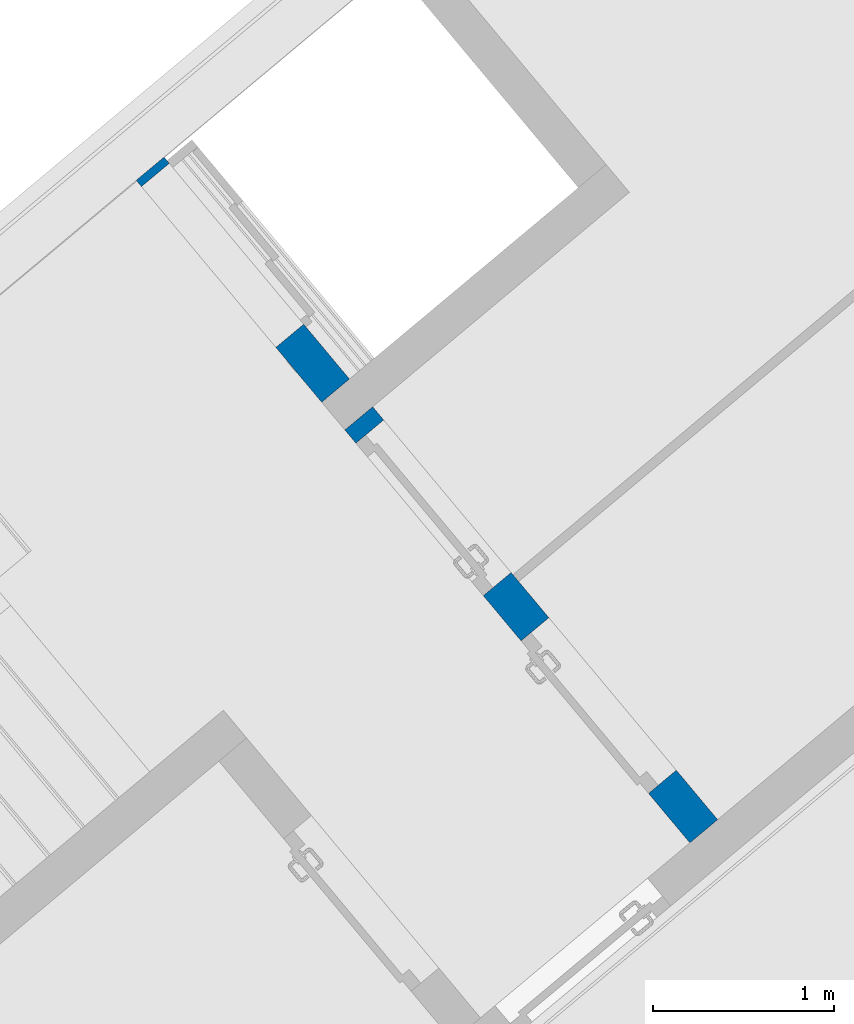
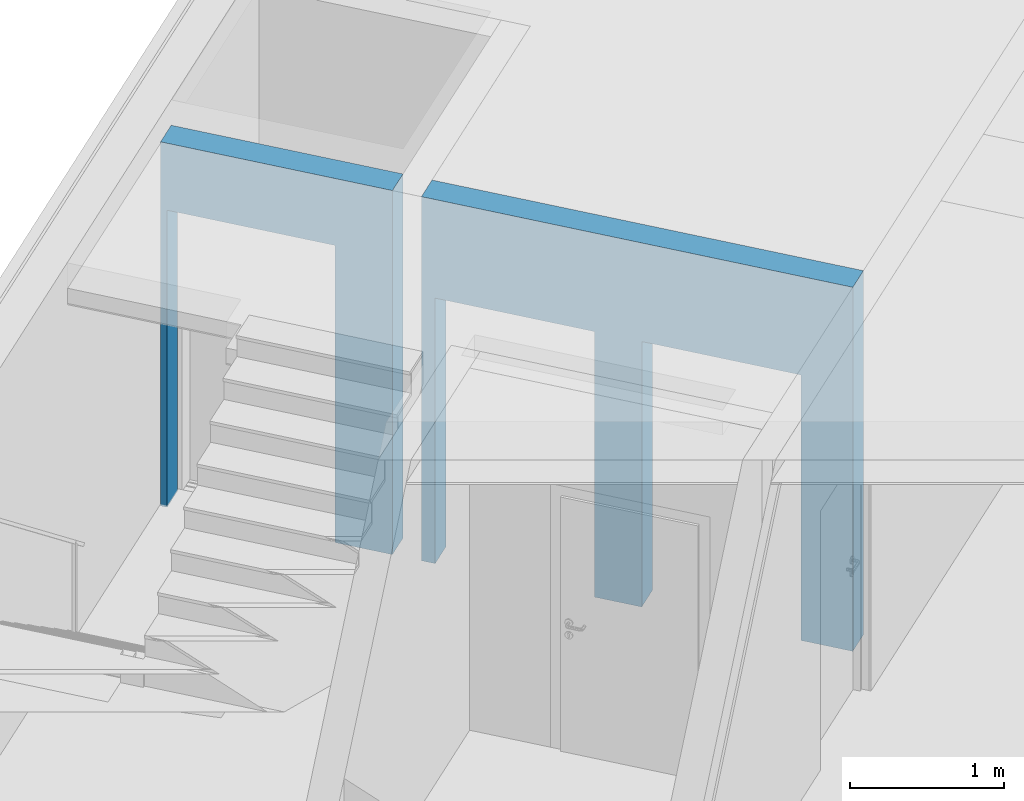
# One storey, part 5 of 14: 1 wall, 3 openings.
"""IFC4 building model written with IfcOpenShell, lengths in metres."""

from ifc_helpers import new_model, entity, si_unit, converted_unit, derived_unit, direction, frame, origin_with_axes, place, context, subcontext, project, spatial, polygons, material, type_object, element, save


model = new_model("IFC4")

# Units and contexts
model_context = context("Model", 3, precision=1e-05, world=origin_with_axes(), true_north=direction((0.0, 1.0)))
body_context = subcontext(model_context, "Body", "Model", "MODEL_VIEW")
ifc_project = project(units=[si_unit("LENGTHUNIT", "METRE"), si_unit("AREAUNIT", "SQUARE_METRE"), si_unit("VOLUMEUNIT", "CUBIC_METRE"), converted_unit("PLANEANGLEUNIT", "DEGREE", entity("IfcPlaneAngleMeasure", 0.0174532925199), si_unit("PLANEANGLEUNIT", "RADIAN"), dimensions=[0, 0, 0, 0, 0, 0, 0]), converted_unit("TIMEUNIT", "Year", entity("IfcTimeMeasure", 31556926.0), si_unit("TIMEUNIT", "SECOND"), dimensions=[0, 0, 1, 0, 0, 0, 0]), si_unit("MASSUNIT", "GRAM", prefix="KILO"), si_unit("THERMODYNAMICTEMPERATUREUNIT", "DEGREE_CELSIUS"), si_unit("LUMINOUSINTENSITYUNIT", "LUMEN"), si_unit("ENERGYUNIT", "JOULE", prefix="MEGA"), derived_unit("THERMALCONDUCTANCEUNIT", [(si_unit("POWERUNIT", "WATT"), 1), (si_unit("LENGTHUNIT", "METRE"), -1), (si_unit("THERMODYNAMICTEMPERATUREUNIT", "KELVIN"), -1)]), derived_unit("SPECIFICHEATCAPACITYUNIT", [(si_unit("ENERGYUNIT", "JOULE"), 1), (si_unit("MASSUNIT", "GRAM", prefix="KILO"), -1), (si_unit("THERMODYNAMICTEMPERATUREUNIT", "KELVIN"), -1)]), derived_unit("MASSDENSITYUNIT", [(si_unit("MASSUNIT", "GRAM", prefix="KILO"), 1), (si_unit("VOLUMEUNIT", "CUBIC_METRE"), -1)])], contexts=[model_context])

# Site, building, storey, space
site_placement = place(None, frame((-0.00153261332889, -0.00661245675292, 0.0), z_axis=(0.0, 0.0, 1.0), x_axis=(1.0, 0.0, 0.0)))
site = spatial("IfcSite", under=ifc_project, at=site_placement, Name="Gelände", CompositionType="ELEMENT")
building_placement = place(site_placement, origin_with_axes())
building = spatial("IfcBuilding", under=site, at=building_placement, Name="Gebäude", CompositionType="ELEMENT")
storey_placement = place(building_placement, frame((0.0, 0.0, -3.3), z_axis=(0.0, 0.0, 1.0), x_axis=(1.0, 0.0, 0.0)))
storey = spatial("IfcBuildingStorey", under=building, at=storey_placement, Name="UG1", CompositionType="ELEMENT", Elevation=-3.3)
space_placement = place(storey_placement, frame((1.60331277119, 27.0712922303, 0.0), z_axis=(0.0, 0.0, 1.0), x_axis=(-0.76736623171, -0.641209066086, 0.0)))
space = spatial("IfcSpace", under=storey, at=space_placement, CompositionType="ELEMENT", PredefinedType="NOTDEFINED")

# Wall, openings
ifc_material = material(Name="Stahlbeton Wand")
wall_type = type_object("IfcWallType", Name="Stahlbeton Wand 200", PredefinedType="NOTDEFINED")
wall_placement = place(space_placement, frame((1.65065098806, 4.97700945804, 0.0), z_axis=(0.0, 0.0, 1.0), x_axis=(5.92263839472e-07, -1.0, 0.0)))
wall = element("IfcWall", 1, at=wall_placement, inside=space, type_object=wall_type, material=ifc_material, Name="Wand-009", PredefinedType="NOTDEFINED", context=body_context, shape_type="Tessellation", body=[
    polygons([(4.93202469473, -8.03421372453e-06, 2.35), (4.93202469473, -8.03415251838e-06, 0.015), (4.93202469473, -8.03415251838e-06, 0.0), (4.97700945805, 0.0, 0.0), (4.97700945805, 0.0, 2.88), (3.37702469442, 0.0, 2.88), (3.37702469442, 0.0, 0.0), (3.77202469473, -8.03421372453e-06, 0.0), (3.77202469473, -8.03421372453e-06, 0.015), (3.77202469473, -8.03421372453e-06, 2.35), (4.93202469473, 0.2, 2.35), (4.93202469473, 0.2, 0.015), (4.93202469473, 0.2, 0.0), (4.97700957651, 0.2, 0.0), (4.97700957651, 0.2, 2.88), (3.37702469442, 0.2, 2.88), (3.37702469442, 0.2, 0.0), (3.77202469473, 0.2, 0.0), (3.77202469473, 0.2, 0.015), (3.77202469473, 0.2, 2.35)], [[[1, 2, 3, 4, 5, 6, 7, 8, 9, 10]], [[2, 1, 11, 12]], [[2, 12, 13, 3]], [[3, 13, 14, 4]], [[14, 15, 5, 4]], [[15, 16, 6, 5]], [[17, 7, 6, 16]], [[18, 8, 7, 17]], [[19, 9, 8, 18]], [[10, 9, 19, 20]], [[1, 10, 20, 11]], [[20, 19, 18, 17, 16, 15, 14, 13, 12, 11]]], closed=True),
    polygons([(1.98187331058, 0.13, 0.015), (1.98187331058, 0.2, 0.015), (1.98187331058, 0.2, 2.1), (1.98187331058, 0.0, 2.1), (1.98187331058, 0.0, 0.015), (1.98187331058, 0.0, 0.0), (1.98187331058, 0.2, 0.0), (1.65642288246, 0.2, 0.0), (1.65642288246, 0.2, 0.015), (1.65642288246, 0.2, 2.1), (0.556422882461, 0.2, 2.1), (0.556422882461, 0.2, 0.015), (0.556422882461, 0.2, 0.0), (0.200000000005, 0.2, 0.0), (0.200000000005, 0.2, 2.88), (3.17702469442, 0.2, 2.88), (3.17702469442, 0.2, 0.0), (3.08187331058, 0.2, 0.0), (3.08187331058, 0.2, 0.015), (3.08187331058, 0.2, 2.1), (3.08187331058, 0.0, 2.1), (3.08187331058, 0.0, 0.015), (3.08187331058, 0.0, 0.0), (3.17702469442, 0.0, 0.0), (3.17702469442, 0.0, 2.88), (0.200000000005, 0.0, 2.88), (0.200000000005, 0.0, 0.0), (0.556422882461, 0.0, 0.0), (0.556422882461, 0.0, 0.015), (0.556422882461, 0.0, 2.1), (1.65642288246, 0.0, 2.1), (1.65642288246, 0.0, 0.015), (1.65642288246, 0.0, 0.0), (3.08187331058, 0.13, 0.015)], [[[1, 2, 3, 4, 5]], [[2, 1, 5, 6, 7]], [[3, 2, 7, 8, 9, 10, 11, 12, 13, 14, 15, 16, 17, 18, 19, 20]], [[4, 3, 20, 21]], [[6, 5, 4, 21, 22, 23, 24, 25, 26, 27, 28, 29, 30, 31, 32, 33]], [[33, 8, 7, 6]], [[8, 33, 32, 9]], [[10, 9, 32, 31]], [[11, 10, 31, 30]], [[12, 11, 30, 29]], [[28, 13, 12, 29]], [[27, 14, 13, 28]], [[26, 15, 14, 27]], [[26, 25, 16, 15]], [[25, 24, 17, 16]], [[17, 24, 23, 18]], [[34, 19, 18, 23, 22]], [[20, 19, 34, 22, 21]]], closed=True),
])
opening_1_placement = place(wall_placement, frame((1.10642288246, 0.0, 0.0), z_axis=(0.0, 0.0, 1.0), x_axis=(1.0, 0.0, 0.0)))
element("IfcOpeningElement", 2, at=opening_1_placement, cuts=wall, Name="Tür-001", context=body_context, identifier="Reference", shape_type="Tessellation", body=[
    polygons([(-0.55, -2.62211393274, 2.1), (-0.55, -2.62211393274, 0.0), (0.55, -2.62211393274, 0.0), (0.55, -2.62211393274, 2.1), (-0.55, 2.82211393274, 2.1), (-0.55, 2.82211393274, 0.0), (0.55, 2.82211393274, 0.0), (0.55, 2.82211393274, 2.1)], [[[1, 2, 3, 4]], [[5, 6, 2, 1]], [[6, 7, 3, 2]], [[7, 8, 4, 3]], [[8, 5, 1, 4]], [[7, 6, 5, 8]]], closed=True),
])
opening_2_placement = place(wall_placement, frame((2.53187331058, 0.0, 0.0), z_axis=(0.0, 0.0, 1.0), x_axis=(1.0, 0.0, 0.0)))
element("IfcOpeningElement", 3, at=opening_2_placement, cuts=wall, Name="Tür-001", context=body_context, identifier="Reference", shape_type="Tessellation", body=[
    polygons([(0.55, 0.13, 0.0), (0.55, 0.13, 2.1), (0.55, -2.62211393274, 2.1), (0.55, -2.62211393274, 0.0), (0.55, 2.82211393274, 0.0), (0.55, 2.82211393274, 2.1), (-0.55, 0.13, 2.1), (-0.55, -2.62211393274, 2.1), (-0.55, 2.82211393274, 2.1), (-0.55, -2.62211393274, 0.0), (-0.55, 0.13, 0.0), (-0.55, 2.82211393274, 0.0)], [[[1, 2, 3, 4]], [[2, 1, 5, 6]], [[7, 8, 3, 2, 6, 9]], [[8, 10, 4, 3]], [[1, 4, 10, 11, 12, 5]], [[6, 5, 12, 9]], [[7, 11, 10, 8]], [[11, 7, 9, 12]]], closed=True),
])
opening_3_placement = place(wall_placement, frame((4.35202469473, 0.0, 0.0), z_axis=(0.0, 0.0, 1.0), x_axis=(1.0, 0.0, 0.0)))
element("IfcOpeningElement", 4, at=opening_3_placement, cuts=wall, Name="Tür-003", context=body_context, identifier="Reference", shape_type="Tessellation", body=[
    polygons([(0.58, 2.82211393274, 2.35), (0.58, 2.82211393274, 0.0), (-0.58, 2.82211393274, 0.0), (-0.58, 2.82211393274, 2.35), (0.58, -2.62211393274, 2.35), (0.58, -2.62211393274, 0.0), (-0.58, -2.62211393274, 0.0), (-0.58, -2.62211393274, 2.35)], [[[1, 2, 3, 4]], [[5, 6, 2, 1]], [[6, 7, 3, 2]], [[7, 8, 4, 3]], [[8, 5, 1, 4]], [[7, 6, 5, 8]]], closed=True),
])

save(model, "model.ifc")
